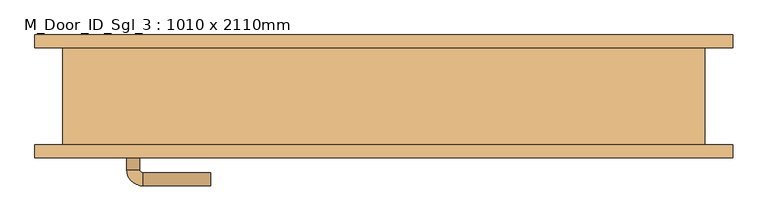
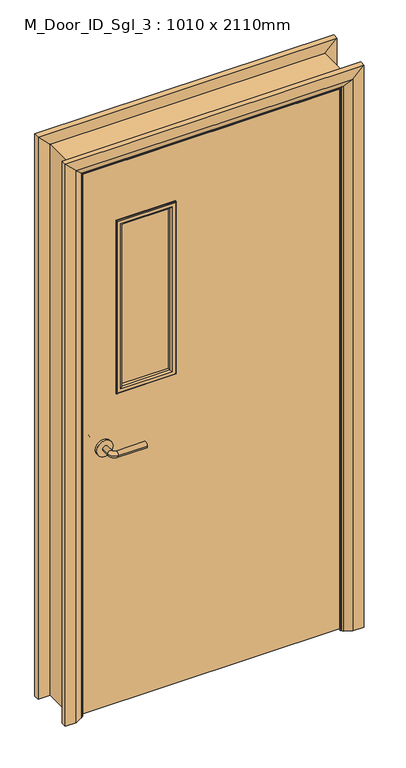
"""IFC4 building model written with IfcOpenShell, lengths in millimetres: door geometry, M_Door_ID_Sgl_3 : 1010 x 2110mm."""

from ifc_helpers import new_model, si_unit, point, frame, frame_2d, origin, place, context, project, spatial, polyline, circle_curve, ellipse_curve, trimmed, segment, composite_curve, outline, extrude, faceted_brep, source, transform, mapped, element, save
from ifc_brep_helpers import plane_surface, cylinder_surface, revolved_surface, advanced_brep


def m_door_id_sgl_3_1010_x_2110mm_1b460edc(model_context):
    return source(origin(), model_context, "Body", "SolidModel", [
        advanced_brep(
        [(-398.0, -29.0, 1000.0), (-378.0, -29.0, 1000.0), (-398.0, 1.0, 1000.0), (-378.0, 1.0, 1000.0), (-373.0, 6.0, 1000.0), (-373.0, 26.0, 1000.0), (-268.0, 26.0, 1000.0), (-268.0, 6.0, 1000.0)],
        [
            (0, 1, circle_curve(frame((-388.0, -29.0, 1000.0), z_axis=(0.0, -1.0, 0.0), x_axis=(1.0, 0.0, 0.0)), 10.0)),
            (1, 0, circle_curve(frame((-388.0, -29.0, 1000.0), z_axis=(0.0, -1.0, 0.0), x_axis=(1.0, 0.0, 0.0)), 10.0)),
            (0, 2),
            (2, 3, circle_curve(frame((-388.0, 1.0, 1000.0), z_axis=(0.0, -1.0, 0.0), x_axis=(1.0, 0.0, 0.0)), 10.0)),
            (3, 1),
            (3, 2, circle_curve(frame((-388.0, 1.0, 1000.0), z_axis=(0.0, -1.0, 0.0), x_axis=(1.0, 0.0, 0.0)), 10.0)),
            (4, 3, circle_curve(frame((-373.0, 1.0, 1000.0), z_axis=(0.0, 0.0, 1.0), x_axis=(-1.0, 0.0, 0.0)), 5.0)),
            (2, 5, circle_curve(frame((-373.0, 1.0, 1000.0), z_axis=(0.0, 0.0, -1.0), x_axis=(-1.0, 0.0, 0.0)), 25.0)),
            (5, 4, circle_curve(frame((-373.0, 16.0, 1000.0), z_axis=(-1.0, 0.0, 0.0), x_axis=(0.0, -1.0, 0.0)), 10.0)),
            (4, 5, circle_curve(frame((-373.0, 16.0, 1000.0), z_axis=(-1.0, 0.0, 0.0), x_axis=(0.0, -1.0, 0.0)), 10.0)),
            (6, 7, circle_curve(frame((-268.0, 16.0, 1000.0), z_axis=(1.0, 0.0, 0.0), x_axis=(0.0, -1.0, 0.0)), 10.0)),
            (7, 6, circle_curve(frame((-268.0, 16.0, 1000.0), z_axis=(1.0, 0.0, 0.0), x_axis=(0.0, -1.0, 0.0)), 10.0)),
            (5, 6),
            (7, 4),
        ],
        [
            plane_surface(frame((-388.0, -29.0, 1000.0), z_axis=(0.0, -1.0, 0.0), x_axis=(0.0, 0.0, 1.0))),
            cylinder_surface(frame((-388.0, -29.0, 1000.0), z_axis=(0.0, -1.0, 0.0), x_axis=(1.0, 0.0, 0.0)), 10.0),
            revolved_surface(trimmed(ellipse_curve(frame((-388.0, 1.0, 1000.0), z_axis=(0.0, -1.0, 0.0), x_axis=(1.0, 0.0, 0.0)), 10.0, 10.0), [point((-398.0, 1.0, 1000.0))], [point((-378.0, 1.0, 1000.0))], True, "CARTESIAN"), (-373.0, 1.0, 1000.0), (0.0, 0.0, -1.0)),
            revolved_surface(trimmed(ellipse_curve(frame((-388.0, 1.0, 1000.0), z_axis=(0.0, -1.0, 0.0), x_axis=(1.0, 0.0, 0.0)), 10.0, 10.0), [point((-378.0, 1.0, 1000.0))], [point((-398.0, 1.0, 1000.0))], True, "CARTESIAN"), (-373.0, 1.0, 1000.0), (0.0, 0.0, -1.0)),
            plane_surface(frame((-268.0, 16.0, 1000.0), z_axis=(1.0, 0.0, 0.0), x_axis=(0.0, 0.0, 1.0))),
            cylinder_surface(frame((-373.0, 16.0, 1000.0), z_axis=(-1.0, 0.0, 0.0), x_axis=(0.0, -1.0, 0.0)), 10.0),
        ],
        [
            (0, [[1, 2]]),
            (1, [[-1, 3, 4, 5]]),
            (1, [[-2, -5, 6, -3]]),
            (2, [[7, -4, 8, 9]]),
            (3, [[-8, -6, -7, 10]]),
            (4, [[11, 12]]),
            (5, [[-9, 13, -12, 14]]),
            (5, [[-10, -14, -11, -13]]),
        ],
    ),
        extrude(outline(composite_curve([segment(trimmed(circle_curve(frame_2d((1000.0, -390.5)), 30.0), [point((1000.0, -420.5))], [point((1000.0, -360.5))], False, "CARTESIAN"), True, "CONTINUOUS"), segment(trimmed(circle_curve(frame_2d((1000.0, -390.5)), 30.0), [point((1000.0, -360.5))], [point((1000.0, -420.5))], False, "CARTESIAN"), True, "CONTINUOUS")], self_intersect=False)), frame((0.0, -37.0, 0.0), z_axis=(0.0, 1.0, 0.0), x_axis=(0.0, 0.0, 1.0)), (0.0, 0.0, 1.0), 8.0),
        advanced_brep(
        [(-398.0, -83.0, 1000.0), (-378.0, -83.0, 1000.0), (-378.0, -113.0, 1000.0), (-398.0, -113.0, 1000.0), (-373.0, -118.0, 1000.0), (-373.0, -138.0, 1000.0), (-268.0, -138.0, 1000.0), (-268.0, -118.0, 1000.0)],
        [
            (0, 1, circle_curve(frame((-388.0, -83.0, 1000.0), z_axis=(0.0, 1.0, 0.0), x_axis=(1.0, 0.0, 0.0)), 10.0)),
            (1, 0, circle_curve(frame((-388.0, -83.0, 1000.0), z_axis=(0.0, 1.0, 0.0), x_axis=(1.0, 0.0, 0.0)), 10.0)),
            (1, 2),
            (2, 3, circle_curve(frame((-388.0, -113.0, 1000.0), z_axis=(0.0, 1.0, 0.0), x_axis=(1.0, 0.0, 0.0)), 10.0)),
            (3, 0),
            (3, 2, circle_curve(frame((-388.0, -113.0, 1000.0), z_axis=(0.0, 1.0, 0.0), x_axis=(1.0, 0.0, 0.0)), 10.0)),
            (4, 5, circle_curve(frame((-373.0, -128.0, 1000.0), z_axis=(-1.0, 0.0, 0.0), x_axis=(0.0, 1.0, 0.0)), 10.0)),
            (5, 3, circle_curve(frame((-373.0, -113.0, 1000.0), z_axis=(0.0, 0.0, -1.0), x_axis=(-1.0, 0.0, 0.0)), 25.0)),
            (2, 4, circle_curve(frame((-373.0, -113.0, 1000.0), z_axis=(0.0, 0.0, 1.0), x_axis=(-1.0, 0.0, 0.0)), 5.0)),
            (5, 4, circle_curve(frame((-373.0, -128.0, 1000.0), z_axis=(-1.0, 0.0, 0.0), x_axis=(0.0, 1.0, 0.0)), 10.0)),
            (6, 7, circle_curve(frame((-268.0, -128.0, 1000.0), z_axis=(1.0, 0.0, 0.0), x_axis=(0.0, 1.0, 0.0)), 10.0)),
            (7, 6, circle_curve(frame((-268.0, -128.0, 1000.0), z_axis=(1.0, 0.0, 0.0), x_axis=(0.0, 1.0, 0.0)), 10.0)),
            (4, 7),
            (6, 5),
        ],
        [
            plane_surface(frame((-388.0, -83.0, 1000.0), z_axis=(0.0, 1.0, 0.0), x_axis=(0.0, 0.0, 1.0))),
            cylinder_surface(frame((-388.0, -83.0, 1000.0), z_axis=(0.0, 1.0, 0.0), x_axis=(1.0, 0.0, 0.0)), 10.0),
            revolved_surface(trimmed(ellipse_curve(frame((-388.0, -113.0, 1000.0), z_axis=(0.0, -1.0, 0.0), x_axis=(1.0, 0.0, 0.0)), 10.0, 10.0), [point((-398.0, -113.0, 1000.0))], [point((-378.0, -113.0, 1000.0))], True, "CARTESIAN"), (-373.0, -113.0, 1000.0), (0.0, 0.0, -1.0)),
            revolved_surface(trimmed(ellipse_curve(frame((-388.0, -113.0, 1000.0), z_axis=(0.0, -1.0, 0.0), x_axis=(1.0, 0.0, 0.0)), 10.0, 10.0), [point((-378.0, -113.0, 1000.0))], [point((-398.0, -113.0, 1000.0))], True, "CARTESIAN"), (-373.0, -113.0, 1000.0), (0.0, 0.0, -1.0)),
            plane_surface(frame((-268.0, -128.0, 1000.0), z_axis=(1.0, 0.0, 0.0), x_axis=(0.0, 0.0, 1.0))),
            cylinder_surface(frame((-373.0, -128.0, 1000.0), z_axis=(-1.0, 0.0, 0.0), x_axis=(0.0, 1.0, 0.0)), 10.0),
        ],
        [
            (0, [[1, 2]]),
            (1, [[3, 4, 5, -2]]),
            (1, [[-5, 6, -3, -1]]),
            (2, [[7, 8, -4, 9]]),
            (3, [[10, -9, -6, -8]]),
            (4, [[11, 12]]),
            (5, [[13, -11, 14, -7]]),
            (5, [[-14, -12, -13, -10]]),
        ],
    ),
        extrude(outline(composite_curve([segment(trimmed(circle_curve(frame_2d((1000.0, -390.5)), 30.0), [point((1000.0, -420.5))], [point((1000.0, -360.5))], False, "CARTESIAN"), True, "CONTINUOUS"), segment(trimmed(circle_curve(frame_2d((1000.0, -390.5)), 30.0), [point((1000.0, -360.5))], [point((1000.0, -420.5))], False, "CARTESIAN"), True, "CONTINUOUS")], self_intersect=False)), frame((0.0, -83.0, 0.0), z_axis=(0.0, 1.0, 0.0), x_axis=(0.0, 0.0, 1.0)), (0.0, 0.0, 1.0), 8.0),
        extrude(outline(polyline([(2068.0, -463.0), (8.0, -463.0), (8.0, 463.0), (2068.0, 463.0), (2068.0, -463.0)]), holes=[polyline([(1843.0, -138.0), (1200.0, -138.0), (1200.0, -338.0), (1843.0, -338.0), (1843.0, -138.0)])]), frame((0.0, -75.0, 0.0), z_axis=(0.0, 1.0, 0.0), x_axis=(0.0, 0.0, 1.0)), (0.0, 0.0, 1.0), 38.0),
        faceted_brep([(-465.0, -75.0, 0.0), (-497.0, -75.0, 0.0), (-497.0, 75.0, 0.0), (-465.0, 75.0, 0.0), (-465.0, 75.0, 2070.0), (-465.0, -75.0, 2070.0), (-497.0, 75.0, 2102.0), (-497.0, -75.0, 2102.0), (465.0, -75.0, 0.0), (465.0, 75.0, 0.0), (497.0, 75.0, 0.0), (497.0, -75.0, 0.0), (465.0, -75.0, 2070.0), (497.0, -75.0, 2102.0), (497.0, 75.0, 2102.0), (465.0, 75.0, 2070.0)], [[[0, 1, 2, 3]], [[3, 4, 5, 0]], [[2, 6, 4, 3]], [[1, 7, 6, 2]], [[0, 5, 7, 1]], [[8, 9, 10, 11]], [[12, 8, 11, 13]], [[13, 11, 10, 14]], [[14, 10, 9, 15]], [[15, 9, 8, 12]], [[4, 15, 12, 5]], [[6, 14, 15, 4]], [[7, 13, 14, 6]], [[5, 12, 13, 7]]]),
        advanced_brep(
        [(-540.0, 95.0, 0.0), (-500.0, 95.0, 0.0), (-474.0, 81.0, 0.0), (-470.0, 75.0, 0.0), (-540.0, 75.0, 0.0), (-540.0, 75.0, 2145.0), (-540.0, 95.0, 2145.0), (-470.0, 75.0, 2075.0), (-474.0, 81.0, 2079.0), (-500.0, 95.0, 2105.0), (540.0, 95.0, 0.0), (540.0, 75.0, 0.0), (470.0, 75.0, 0.0), (474.0, 81.0, 0.0), (500.0, 95.0, 0.0), (540.0, 95.0, 2145.0), (500.0, 95.0, 2105.0), (474.0, 81.0, 2079.0), (470.0, 75.0, 2075.0), (540.0, 75.0, 2145.0)],
        [
            (0, 1),
            (1, 2),
            (2, 3, circle_curve(frame((-478.0, 74.0, 0.0), z_axis=(0.0, 0.0, -1.0), x_axis=(-1.0, 0.0, 0.0)), 8.0622577)),
            (3, 4),
            (4, 0),
            (4, 5),
            (5, 6),
            (6, 0),
            (3, 7),
            (7, 5),
            (2, 8),
            (8, 7, ellipse_curve(frame((-478.0, 74.0, 2083.0), z_axis=(-0.7071067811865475, 0.0, -0.7071067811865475), x_axis=(0.7071067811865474, 0.0, -0.7071067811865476)), 11.4017543, 8.0622577)),
            (1, 9),
            (9, 8),
            (6, 9),
            (10, 11),
            (11, 12),
            (12, 13, circle_curve(frame((478.0, 74.0, 0.0), z_axis=(0.0, 0.0, -1.0), x_axis=(1.0, 0.0, 0.0)), 8.0622577)),
            (13, 14),
            (14, 10),
            (15, 10),
            (14, 16),
            (16, 15),
            (13, 17),
            (17, 16),
            (12, 18),
            (18, 17, ellipse_curve(frame((478.0, 74.0, 2083.0), z_axis=(0.7071067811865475, 0.0, -0.7071067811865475), x_axis=(0.7071067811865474, 0.0, 0.7071067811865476)), 11.4017543, 8.0622577)),
            (11, 19),
            (19, 18),
            (15, 19),
            (5, 19),
            (15, 6),
            (7, 18),
            (8, 17),
            (9, 16),
        ],
        [
            plane_surface(frame((-470.0, 147.8010989, 0.0), z_axis=(0.0, 0.0, -1.0), x_axis=(1.0, 0.0, 0.0))),
            plane_surface(frame((-540.0, 95.0, 0.0), z_axis=(-1.0, 0.0, 0.0), x_axis=(0.0, 0.0, 1.0))),
            plane_surface(frame((-540.0, 75.0, 0.0), z_axis=(0.0, -1.0, 0.0), x_axis=(0.0, 0.0, 1.0))),
            cylinder_surface(frame((-478.0, 74.0, 0.0), z_axis=(0.0, 0.0, -1.0), x_axis=(-1.0, 0.0, 0.0)), 8.0622577),
            plane_surface(frame((-474.0, 81.0, 0.0), z_axis=(0.4740998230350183, 0.8804710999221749, 0.0), x_axis=(0.0, 0.0, 1.0))),
            plane_surface(frame((-500.0, 95.0, 0.0), z_axis=(0.0, 1.0, 0.0), x_axis=(0.0, 0.0, 1.0))),
            plane_surface(frame((470.0, 147.8010989, 0.0), z_axis=(0.0, 0.0, -1.0), x_axis=(-1.0, 0.0, 0.0))),
            plane_surface(frame((500.0, 95.0, 2105.0), z_axis=(0.0, 1.0, 0.0), x_axis=(0.0, 0.0, -1.0))),
            plane_surface(frame((474.0, 81.0, 2079.0), z_axis=(-0.4740998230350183, 0.8804710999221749, 0.0), x_axis=(0.0, 0.0, -1.0))),
            cylinder_surface(frame((478.0, 74.0, 2075.0), z_axis=(0.0, 0.0, 1.0), x_axis=(1.0, 0.0, 0.0)), 8.0622577),
            plane_surface(frame((540.0, 75.0, 2145.0), z_axis=(0.0, -1.0, 0.0), x_axis=(0.0, 0.0, -1.0))),
            plane_surface(frame((540.0, 95.0, 2145.0), z_axis=(1.0, 0.0, 0.0), x_axis=(0.0, 0.0, -1.0))),
            plane_surface(frame((-540.0, 95.0, 2145.0), z_axis=(0.0, 0.0, 1.0), x_axis=(1.0, 0.0, 0.0))),
            plane_surface(frame((-540.0, 75.0, 2145.0), z_axis=(0.0, -1.0, 0.0), x_axis=(1.0, 0.0, 0.0))),
            cylinder_surface(frame((-470.0, 74.0, 2083.0), z_axis=(-1.0, 0.0, 0.0), x_axis=(0.0, 0.0, 1.0)), 8.0622577),
            plane_surface(frame((-474.0, 81.0, 2079.0), z_axis=(0.0, 0.8804710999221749, -0.4740998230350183), x_axis=(1.0, 0.0, 0.0))),
            plane_surface(frame((-500.0, 95.0, 2105.0), z_axis=(0.0, 1.0, 0.0), x_axis=(1.0, 0.0, 0.0))),
        ],
        [
            (0, [[1, 2, 3, 4, 5]]),
            (1, [[6, 7, 8, -5]]),
            (2, [[9, 10, -6, -4]]),
            (3, [[11, 12, -9, -3]]),
            (4, [[13, 14, -11, -2]]),
            (5, [[-8, 15, -13, -1]]),
            (6, [[16, 17, 18, 19, 20]]),
            (7, [[21, -20, 22, 23]]),
            (8, [[-22, -19, 24, 25]]),
            (9, [[-24, -18, 26, 27]]),
            (10, [[-26, -17, 28, 29]]),
            (11, [[-28, -16, -21, 30]]),
            (12, [[31, -30, 32, -7]]),
            (13, [[33, -29, -31, -10]]),
            (14, [[34, -27, -33, -12]]),
            (15, [[35, -25, -34, -14]]),
            (16, [[-32, -23, -35, -15]]),
        ],
    ),
        advanced_brep(
        [(-540.0, -95.0, 0.0), (-540.0, -75.0, 0.0), (-470.0, -75.0, 0.0), (-474.0, -81.0, 0.0), (-500.0, -95.0, 0.0), (-500.0, -95.0, 2105.0), (-540.0, -95.0, 2145.0), (-474.0, -81.0, 2079.0), (-470.0, -75.0, 2075.0), (-540.0, -75.0, 2145.0), (540.0, -95.0, 0.0), (500.0, -95.0, 0.0), (474.0, -81.0, 0.0), (470.0, -75.0, 0.0), (540.0, -75.0, 0.0), (540.0, -95.0, 2145.0), (540.0, -75.0, 2145.0), (470.0, -75.0, 2075.0), (474.0, -81.0, 2079.0), (500.0, -95.0, 2105.0)],
        [
            (0, 1),
            (1, 2),
            (2, 3, circle_curve(frame((-478.0, -74.0, 0.0), z_axis=(0.0, 0.0, -1.0), x_axis=(-1.0, 0.0, 0.0)), 8.0622577)),
            (3, 4),
            (4, 0),
            (4, 5),
            (5, 6),
            (6, 0),
            (3, 7),
            (7, 5),
            (2, 8),
            (8, 7, ellipse_curve(frame((-478.0, -74.0, 2083.0), z_axis=(-0.7071067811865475, 0.0, -0.7071067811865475), x_axis=(0.7071067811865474, 0.0, -0.7071067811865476)), 11.4017543, 8.0622577)),
            (1, 9),
            (9, 8),
            (6, 9),
            (10, 11),
            (11, 12),
            (12, 13, circle_curve(frame((478.0, -74.0, 0.0), z_axis=(0.0, 0.0, -1.0), x_axis=(1.0, 0.0, 0.0)), 8.0622577)),
            (13, 14),
            (14, 10),
            (15, 10),
            (14, 16),
            (16, 15),
            (13, 17),
            (17, 16),
            (12, 18),
            (18, 17, ellipse_curve(frame((478.0, -74.0, 2083.0), z_axis=(0.7071067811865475, 0.0, -0.7071067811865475), x_axis=(0.7071067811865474, 0.0, 0.7071067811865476)), 11.4017543, 8.0622577)),
            (11, 19),
            (19, 18),
            (15, 19),
            (5, 19),
            (15, 6),
            (7, 18),
            (8, 17),
            (9, 16),
        ],
        [
            plane_surface(frame((-470.0, -2.1989011, 0.0), z_axis=(0.0, 0.0, -1.0), x_axis=(1.0, 0.0, 0.0))),
            plane_surface(frame((-540.0, -95.0, 0.0), z_axis=(0.0, -1.0, 0.0), x_axis=(0.0, 0.0, 1.0))),
            plane_surface(frame((-500.0, -95.0, 0.0), z_axis=(0.4740998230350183, -0.8804710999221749, 0.0), x_axis=(0.0, 0.0, 1.0))),
            cylinder_surface(frame((-478.0, -74.0, 0.0), z_axis=(0.0, 0.0, -1.0), x_axis=(-1.0, 0.0, 0.0)), 8.0622577),
            plane_surface(frame((-470.0, -75.0, 0.0), z_axis=(0.0, 1.0, 0.0), x_axis=(0.0, 0.0, 1.0))),
            plane_surface(frame((-540.0, -75.0, 0.0), z_axis=(-1.0, 0.0, 0.0), x_axis=(0.0, 0.0, 1.0))),
            plane_surface(frame((470.0, -2.1989011, 0.0), z_axis=(0.0, 0.0, -1.0), x_axis=(-1.0, 0.0, 0.0))),
            plane_surface(frame((540.0, -75.0, 2145.0), z_axis=(1.0, 0.0, 0.0), x_axis=(0.0, 0.0, -1.0))),
            plane_surface(frame((470.0, -75.0, 2075.0), z_axis=(0.0, 1.0, 0.0), x_axis=(0.0, 0.0, -1.0))),
            cylinder_surface(frame((478.0, -74.0, 2075.0), z_axis=(0.0, 0.0, 1.0), x_axis=(1.0, 0.0, 0.0)), 8.0622577),
            plane_surface(frame((500.0, -95.0, 2105.0), z_axis=(-0.4740998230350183, -0.8804710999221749, 0.0), x_axis=(0.0, 0.0, -1.0))),
            plane_surface(frame((540.0, -95.0, 2145.0), z_axis=(0.0, -1.0, 0.0), x_axis=(0.0, 0.0, -1.0))),
            plane_surface(frame((-540.0, -95.0, 2145.0), z_axis=(0.0, -1.0, 0.0), x_axis=(1.0, 0.0, 0.0))),
            plane_surface(frame((-500.0, -95.0, 2105.0), z_axis=(0.0, -0.8804710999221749, -0.4740998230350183), x_axis=(1.0, 0.0, 0.0))),
            cylinder_surface(frame((-470.0, -74.0, 2083.0), z_axis=(-1.0, 0.0, 0.0), x_axis=(0.0, 0.0, 1.0)), 8.0622577),
            plane_surface(frame((-470.0, -75.0, 2075.0), z_axis=(0.0, 1.0, 0.0), x_axis=(1.0, 0.0, 0.0))),
            plane_surface(frame((-540.0, -75.0, 2145.0), z_axis=(0.0, 0.0, 1.0), x_axis=(1.0, 0.0, 0.0))),
        ],
        [
            (0, [[1, 2, 3, 4, 5]]),
            (1, [[6, 7, 8, -5]]),
            (2, [[9, 10, -6, -4]]),
            (3, [[11, 12, -9, -3]]),
            (4, [[13, 14, -11, -2]]),
            (5, [[-8, 15, -13, -1]]),
            (6, [[16, 17, 18, 19, 20]]),
            (7, [[21, -20, 22, 23]]),
            (8, [[-22, -19, 24, 25]]),
            (9, [[-24, -18, 26, 27]]),
            (10, [[-26, -17, 28, 29]]),
            (11, [[-28, -16, -21, 30]]),
            (12, [[31, -30, 32, -7]]),
            (13, [[33, -29, -31, -10]]),
            (14, [[34, -27, -33, -12]]),
            (15, [[35, -25, -34, -14]]),
            (16, [[-32, -23, -35, -15]]),
        ],
    ),
        extrude(outline(polyline([(0.0, -446.0), (2051.0, -446.0), (2051.0, 446.0), (0.0, 446.0), (0.0, 465.0), (2070.0, 465.0), (2070.0, -465.0), (0.0, -465.0), (0.0, -446.0)])), frame((0.0, -35.0, 0.0), z_axis=(0.0, 1.0, 0.0), x_axis=(0.0, 0.0, 1.0)), (0.0, 0.0, 1.0), 32.0),
        advanced_brep(
        [(-130.0, -79.0, 1851.0), (-130.0, -79.0, 1192.0), (-130.0, -75.0, 1192.0), (-130.0, -75.0, 1851.0), (-132.0, -81.0, 1849.0), (-132.0, -81.0, 1194.0), (-150.0, -76.0, 1831.0), (-150.0, -76.0, 1212.0), (-145.0, -81.0, 1207.0), (-145.0, -81.0, 1836.0), (-150.0, -65.0, 1831.0), (-150.0, -65.0, 1212.0), (-138.0, -75.0, 1843.0), (-138.0, -75.0, 1200.0), (-138.0, -65.0, 1200.0), (-138.0, -65.0, 1843.0), (-346.0, -79.0, 1192.0), (-346.0, -75.0, 1192.0), (-344.0, -81.0, 1194.0), (-326.0, -76.0, 1212.0), (-331.0, -81.0, 1207.0), (-326.0, -65.0, 1212.0), (-338.0, -75.0, 1200.0), (-338.0, -65.0, 1200.0), (-346.0, -79.0, 1851.0), (-346.0, -75.0, 1851.0), (-344.0, -81.0, 1849.0), (-326.0, -76.0, 1831.0), (-331.0, -81.0, 1836.0), (-326.0, -65.0, 1831.0), (-338.0, -75.0, 1843.0), (-338.0, -65.0, 1843.0)],
        [
            (0, 1),
            (1, 2),
            (2, 3),
            (3, 0),
            (4, 5),
            (5, 1, ellipse_curve(frame((-132.0, -79.0, 1194.0), z_axis=(0.7071067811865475, 0.0, 0.7071067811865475), x_axis=(-0.7071067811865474, 0.0, 0.7071067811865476)), 2.8284271, 2.0)),
            (0, 4, ellipse_curve(frame((-132.0, -79.0, 1849.0), z_axis=(0.7071067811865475, 0.0, -0.7071067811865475), x_axis=(0.7071067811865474, 0.0, 0.7071067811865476)), 2.8284271, 2.0)),
            (6, 7),
            (7, 8, ellipse_curve(frame((-145.0, -76.0, 1207.0), z_axis=(0.7071067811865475, 0.0, 0.7071067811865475), x_axis=(-0.7071067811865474, 0.0, 0.7071067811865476)), 7.0710678, 5.0)),
            (8, 9),
            (9, 6, ellipse_curve(frame((-145.0, -76.0, 1836.0), z_axis=(0.7071067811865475, 0.0, -0.7071067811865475), x_axis=(0.7071067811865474, 0.0, 0.7071067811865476)), 7.0710678, 5.0)),
            (10, 11),
            (11, 7),
            (6, 10),
            (12, 13),
            (13, 14),
            (14, 15),
            (15, 12),
            (1, 16),
            (16, 17),
            (17, 2),
            (5, 18),
            (18, 16, ellipse_curve(frame((-344.0, -79.0, 1194.0), z_axis=(0.7071067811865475, 0.0, -0.7071067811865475), x_axis=(0.7071067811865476, 0.0, 0.7071067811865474)), 2.8284271, 2.0)),
            (7, 19),
            (19, 20, ellipse_curve(frame((-331.0, -76.0, 1207.0), z_axis=(0.7071067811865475, 0.0, -0.7071067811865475), x_axis=(0.7071067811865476, 0.0, 0.7071067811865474)), 7.0710678, 5.0)),
            (20, 8),
            (11, 21),
            (21, 19),
            (13, 22),
            (22, 23),
            (23, 14),
            (16, 24),
            (24, 25),
            (25, 17),
            (18, 26),
            (26, 24, ellipse_curve(frame((-344.0, -79.0, 1849.0), z_axis=(-0.7071067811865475, 0.0, -0.7071067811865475), x_axis=(0.7071067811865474, 0.0, -0.7071067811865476)), 2.8284271, 2.0)),
            (19, 27),
            (27, 28, ellipse_curve(frame((-331.0, -76.0, 1836.0), z_axis=(-0.7071067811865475, 0.0, -0.7071067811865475), x_axis=(0.7071067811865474, 0.0, -0.7071067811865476)), 7.0710678, 5.0)),
            (28, 20),
            (21, 29),
            (29, 27),
            (22, 30),
            (30, 31),
            (31, 23),
            (24, 0),
            (3, 25),
            (26, 4),
            (28, 9),
            (27, 6),
            (29, 10),
            (31, 15),
            (30, 12),
        ],
        [
            plane_surface(frame((-130.0, -75.0, 1851.0), z_axis=(1.0, 0.0, 0.0), x_axis=(0.0, 0.0, -1.0))),
            cylinder_surface(frame((-132.0, -79.0, 1843.0), z_axis=(0.0, 0.0, 1.0), x_axis=(1.0, 0.0, 0.0)), 2.0),
            cylinder_surface(frame((-145.0, -76.0, 1843.0), z_axis=(0.0, 0.0, 1.0), x_axis=(1.0, 0.0, 0.0)), 5.0),
            plane_surface(frame((-150.0, -76.0, 1831.0), z_axis=(-1.0, 0.0, 0.0), x_axis=(0.0, 0.0, -1.0))),
            plane_surface(frame((-138.0, -65.0, 1843.0), z_axis=(1.0, 0.0, 0.0), x_axis=(0.0, 0.0, -1.0))),
            plane_surface(frame((-130.0, -75.0, 1192.0), z_axis=(0.0, 0.0, -1.0), x_axis=(-1.0, 0.0, 0.0))),
            cylinder_surface(frame((-138.0, -79.0, 1194.0), z_axis=(1.0, 0.0, 0.0), x_axis=(0.0, 0.0, -1.0)), 2.0),
            cylinder_surface(frame((-138.0, -76.0, 1207.0), z_axis=(1.0, 0.0, 0.0), x_axis=(0.0, 0.0, -1.0)), 5.0),
            plane_surface(frame((-150.0, -76.0, 1212.0), z_axis=(0.0, 0.0, 1.0), x_axis=(-1.0, 0.0, 0.0))),
            plane_surface(frame((-138.0, -65.0, 1200.0), z_axis=(0.0, 0.0, -1.0), x_axis=(-1.0, 0.0, 0.0))),
            plane_surface(frame((-346.0, -75.0, 1192.0), z_axis=(-1.0, 0.0, 0.0), x_axis=(0.0, 0.0, 1.0))),
            cylinder_surface(frame((-344.0, -79.0, 1200.0), z_axis=(0.0, 0.0, -1.0), x_axis=(-1.0, 0.0, 0.0)), 2.0),
            cylinder_surface(frame((-331.0, -76.0, 1200.0), z_axis=(0.0, 0.0, -1.0), x_axis=(-1.0, 0.0, 0.0)), 5.0),
            plane_surface(frame((-326.0, -76.0, 1212.0), z_axis=(1.0, 0.0, 0.0), x_axis=(0.0, 0.0, 1.0))),
            plane_surface(frame((-338.0, -65.0, 1200.0), z_axis=(-1.0, 0.0, 0.0), x_axis=(0.0, 0.0, 1.0))),
            plane_surface(frame((-346.0, -75.0, 1851.0), z_axis=(0.0, 0.0, 1.0), x_axis=(1.0, 0.0, 0.0))),
            cylinder_surface(frame((-338.0, -79.0, 1849.0), z_axis=(-1.0, 0.0, 0.0), x_axis=(0.0, 0.0, 1.0)), 2.0),
            plane_surface(frame((-344.0, -81.0, 1849.0), z_axis=(0.0, -1.0, 0.0), x_axis=(1.0, 0.0, 0.0))),
            cylinder_surface(frame((-338.0, -76.0, 1836.0), z_axis=(-1.0, 0.0, 0.0), x_axis=(0.0, 0.0, 1.0)), 5.0),
            plane_surface(frame((-326.0, -76.0, 1831.0), z_axis=(0.0, 0.0, -1.0), x_axis=(1.0, 0.0, 0.0))),
            plane_surface(frame((-326.0, -65.0, 1831.0), z_axis=(0.0, 1.0, 0.0), x_axis=(1.0, 0.0, 0.0))),
            plane_surface(frame((-338.0, -65.0, 1843.0), z_axis=(0.0, 0.0, 1.0), x_axis=(1.0, 0.0, 0.0))),
            plane_surface(frame((-338.0, -75.0, 1843.0), z_axis=(0.0, 1.0, 0.0), x_axis=(1.0, 0.0, 0.0))),
        ],
        [
            (0, [[1, 2, 3, 4]]),
            (1, [[5, 6, -1, 7]]),
            (2, [[8, 9, 10, 11]]),
            (3, [[12, 13, -8, 14]]),
            (4, [[15, 16, 17, 18]]),
            (5, [[19, 20, 21, -2]]),
            (6, [[22, 23, -19, -6]]),
            (7, [[24, 25, 26, -9]]),
            (8, [[27, 28, -24, -13]]),
            (9, [[29, 30, 31, -16]]),
            (10, [[32, 33, 34, -20]]),
            (11, [[35, 36, -32, -23]]),
            (12, [[37, 38, 39, -25]]),
            (13, [[40, 41, -37, -28]]),
            (14, [[42, 43, 44, -30]]),
            (15, [[45, -4, 46, -33]]),
            (16, [[47, -7, -45, -36]]),
            (17, [[-5, -47, -35, -22], [-10, -26, -39, 48]]),
            (18, [[49, -11, -48, -38]]),
            (19, [[50, -14, -49, -41]]),
            (20, [[-17, -31, -44, 51], [-12, -50, -40, -27]]),
            (21, [[52, -18, -51, -43]]),
            (22, [[-3, -21, -34, -46], [-15, -52, -42, -29]]),
        ],
    ),
        advanced_brep(
        [(-138.0, -47.0, 1843.0), (-138.0, -47.0, 1200.0), (-138.0, -37.0, 1200.0), (-138.0, -37.0, 1843.0), (-150.0, -36.0, 1831.0), (-150.0, -36.0, 1212.0), (-150.0, -47.0, 1212.0), (-150.0, -47.0, 1831.0), (-145.0, -31.0, 1836.0), (-145.0, -31.0, 1207.0), (-130.0, -33.0, 1851.0), (-130.0, -33.0, 1192.0), (-132.0, -31.0, 1194.0), (-132.0, -31.0, 1849.0), (-130.0, -37.0, 1851.0), (-130.0, -37.0, 1192.0), (-338.0, -47.0, 1200.0), (-338.0, -37.0, 1200.0), (-326.0, -36.0, 1212.0), (-326.0, -47.0, 1212.0), (-331.0, -31.0, 1207.0), (-346.0, -33.0, 1192.0), (-344.0, -31.0, 1194.0), (-346.0, -37.0, 1192.0), (-338.0, -47.0, 1843.0), (-338.0, -37.0, 1843.0), (-326.0, -36.0, 1831.0), (-326.0, -47.0, 1831.0), (-331.0, -31.0, 1836.0), (-346.0, -33.0, 1851.0), (-344.0, -31.0, 1849.0), (-346.0, -37.0, 1851.0)],
        [
            (0, 1),
            (1, 2),
            (2, 3),
            (3, 0),
            (4, 5),
            (5, 6),
            (6, 7),
            (7, 4),
            (8, 9),
            (9, 5, ellipse_curve(frame((-145.0, -36.0, 1207.0), z_axis=(0.7071067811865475, 0.0, 0.7071067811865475), x_axis=(-0.7071067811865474, 0.0, 0.7071067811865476)), 7.0710678, 5.0)),
            (4, 8, ellipse_curve(frame((-145.0, -36.0, 1836.0), z_axis=(0.7071067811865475, 0.0, -0.7071067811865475), x_axis=(0.7071067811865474, 0.0, 0.7071067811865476)), 7.0710678, 5.0)),
            (10, 11),
            (11, 12, ellipse_curve(frame((-132.0, -33.0, 1194.0), z_axis=(0.7071067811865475, 0.0, 0.7071067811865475), x_axis=(-0.7071067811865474, 0.0, 0.7071067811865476)), 2.8284271, 2.0)),
            (12, 13),
            (13, 10, ellipse_curve(frame((-132.0, -33.0, 1849.0), z_axis=(0.7071067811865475, 0.0, -0.7071067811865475), x_axis=(0.7071067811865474, 0.0, 0.7071067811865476)), 2.8284271, 2.0)),
            (14, 15),
            (15, 11),
            (10, 14),
            (1, 16),
            (16, 17),
            (17, 2),
            (5, 18),
            (18, 19),
            (19, 6),
            (9, 20),
            (20, 18, ellipse_curve(frame((-331.0, -36.0, 1207.0), z_axis=(0.7071067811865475, 0.0, -0.7071067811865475), x_axis=(0.7071067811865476, 0.0, 0.7071067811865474)), 7.0710678, 5.0)),
            (11, 21),
            (21, 22, ellipse_curve(frame((-344.0, -33.0, 1194.0), z_axis=(0.7071067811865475, 0.0, -0.7071067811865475), x_axis=(0.7071067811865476, 0.0, 0.7071067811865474)), 2.8284271, 2.0)),
            (22, 12),
            (15, 23),
            (23, 21),
            (16, 24),
            (24, 25),
            (25, 17),
            (18, 26),
            (26, 27),
            (27, 19),
            (20, 28),
            (28, 26, ellipse_curve(frame((-331.0, -36.0, 1836.0), z_axis=(-0.7071067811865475, 0.0, -0.7071067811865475), x_axis=(0.7071067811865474, 0.0, -0.7071067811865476)), 7.0710678, 5.0)),
            (21, 29),
            (29, 30, ellipse_curve(frame((-344.0, -33.0, 1849.0), z_axis=(-0.7071067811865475, 0.0, -0.7071067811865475), x_axis=(0.7071067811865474, 0.0, -0.7071067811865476)), 2.8284271, 2.0)),
            (30, 22),
            (23, 31),
            (31, 29),
            (14, 31),
            (25, 3),
            (24, 0),
            (27, 7),
            (26, 4),
            (28, 8),
            (30, 13),
            (29, 10),
        ],
        [
            plane_surface(frame((-138.0, -37.0, 1843.0), z_axis=(1.0, 0.0, 0.0), x_axis=(0.0, 0.0, -1.0))),
            plane_surface(frame((-150.0, -47.0, 1831.0), z_axis=(-1.0, 0.0, 0.0), x_axis=(0.0, 0.0, -1.0))),
            cylinder_surface(frame((-145.0, -36.0, 1843.0), z_axis=(0.0, 0.0, 1.0), x_axis=(1.0, 0.0, 0.0)), 5.0),
            cylinder_surface(frame((-132.0, -33.0, 1843.0), z_axis=(0.0, 0.0, 1.0), x_axis=(1.0, 0.0, 0.0)), 2.0),
            plane_surface(frame((-130.0, -33.0, 1851.0), z_axis=(1.0, 0.0, 0.0), x_axis=(0.0, 0.0, -1.0))),
            plane_surface(frame((-138.0, -37.0, 1200.0), z_axis=(0.0, 0.0, -1.0), x_axis=(-1.0, 0.0, 0.0))),
            plane_surface(frame((-150.0, -47.0, 1212.0), z_axis=(0.0, 0.0, 1.0), x_axis=(-1.0, 0.0, 0.0))),
            cylinder_surface(frame((-138.0, -36.0, 1207.0), z_axis=(1.0, 0.0, 0.0), x_axis=(0.0, 0.0, -1.0)), 5.0),
            cylinder_surface(frame((-138.0, -33.0, 1194.0), z_axis=(1.0, 0.0, 0.0), x_axis=(0.0, 0.0, -1.0)), 2.0),
            plane_surface(frame((-130.0, -33.0, 1192.0), z_axis=(0.0, 0.0, -1.0), x_axis=(-1.0, 0.0, 0.0))),
            plane_surface(frame((-338.0, -37.0, 1200.0), z_axis=(-1.0, 0.0, 0.0), x_axis=(0.0, 0.0, 1.0))),
            plane_surface(frame((-326.0, -47.0, 1212.0), z_axis=(1.0, 0.0, 0.0), x_axis=(0.0, 0.0, 1.0))),
            cylinder_surface(frame((-331.0, -36.0, 1200.0), z_axis=(0.0, 0.0, -1.0), x_axis=(-1.0, 0.0, 0.0)), 5.0),
            cylinder_surface(frame((-344.0, -33.0, 1200.0), z_axis=(0.0, 0.0, -1.0), x_axis=(-1.0, 0.0, 0.0)), 2.0),
            plane_surface(frame((-346.0, -33.0, 1192.0), z_axis=(-1.0, 0.0, 0.0), x_axis=(0.0, 0.0, 1.0))),
            plane_surface(frame((-346.0, -37.0, 1851.0), z_axis=(0.0, -1.0, 0.0), x_axis=(1.0, 0.0, 0.0))),
            plane_surface(frame((-338.0, -37.0, 1843.0), z_axis=(0.0, 0.0, 1.0), x_axis=(1.0, 0.0, 0.0))),
            plane_surface(frame((-338.0, -47.0, 1843.0), z_axis=(0.0, -1.0, 0.0), x_axis=(1.0, 0.0, 0.0))),
            plane_surface(frame((-326.0, -47.0, 1831.0), z_axis=(0.0, 0.0, -1.0), x_axis=(1.0, 0.0, 0.0))),
            cylinder_surface(frame((-338.0, -36.0, 1836.0), z_axis=(-1.0, 0.0, 0.0), x_axis=(0.0, 0.0, 1.0)), 5.0),
            plane_surface(frame((-331.0, -31.0, 1836.0), z_axis=(0.0, 1.0, 0.0), x_axis=(1.0, 0.0, 0.0))),
            cylinder_surface(frame((-338.0, -33.0, 1849.0), z_axis=(-1.0, 0.0, 0.0), x_axis=(0.0, 0.0, 1.0)), 2.0),
            plane_surface(frame((-346.0, -33.0, 1851.0), z_axis=(0.0, 0.0, 1.0), x_axis=(1.0, 0.0, 0.0))),
        ],
        [
            (0, [[1, 2, 3, 4]]),
            (1, [[5, 6, 7, 8]]),
            (2, [[9, 10, -5, 11]]),
            (3, [[12, 13, 14, 15]]),
            (4, [[16, 17, -12, 18]]),
            (5, [[19, 20, 21, -2]]),
            (6, [[22, 23, 24, -6]]),
            (7, [[25, 26, -22, -10]]),
            (8, [[27, 28, 29, -13]]),
            (9, [[30, 31, -27, -17]]),
            (10, [[32, 33, 34, -20]]),
            (11, [[35, 36, 37, -23]]),
            (12, [[38, 39, -35, -26]]),
            (13, [[40, 41, 42, -28]]),
            (14, [[43, 44, -40, -31]]),
            (15, [[-16, 45, -43, -30], [-3, -21, -34, 46]]),
            (16, [[47, -4, -46, -33]]),
            (17, [[-1, -47, -32, -19], [-7, -24, -37, 48]]),
            (18, [[49, -8, -48, -36]]),
            (19, [[50, -11, -49, -39]]),
            (20, [[-14, -29, -42, 51], [-9, -50, -38, -25]]),
            (21, [[52, -15, -51, -41]]),
            (22, [[-45, -18, -52, -44]]),
        ],
    ),
        extrude(outline(polyline([(-338.0, -65.0), (-338.0, -47.0), (-138.0, -47.0), (-138.0, -65.0), (-338.0, -65.0)])), frame((0.0, 0.0, 1200.0), z_axis=(0.0, 0.0, 1.0), x_axis=(1.0, 0.0, 0.0)), (0.0, 0.0, 1.0), 643.0),
    ])


if __name__ == "__main__":
    model = new_model("IFC4")
    model_context = context("Model", 3, world=origin())
    ifc_project = project(units=[si_unit("LENGTHUNIT", "METRE", prefix="MILLI")], contexts=[model_context])
    site = spatial("IfcSite", under=ifc_project)
    building = spatial("IfcBuilding", under=site)
    placement = place(None, origin())
    m_door_id_sgl_3_1010_x_2110mm_shape = m_door_id_sgl_3_1010_x_2110mm_1b460edc(model_context)
    element("IfcDoor", 1, ObjectType="M_Door_ID_Sgl_3 : 1010 x 2110mm", at=placement, inside=building, context=model_context, shape_type="MappedRepresentation", body=[
        mapped(m_door_id_sgl_3_1010_x_2110mm_shape, transform((0.0, 0.0, 0.0), x_axis=(1.0, 0.0, 0.0), y_axis=(0.0, 1.0, 0.0), z_axis=(0.0, 0.0, 1.0))),
    ])
    save(model, "model.ifc")
